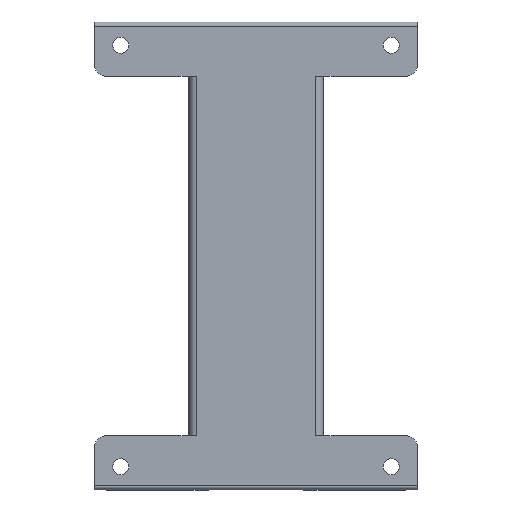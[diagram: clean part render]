
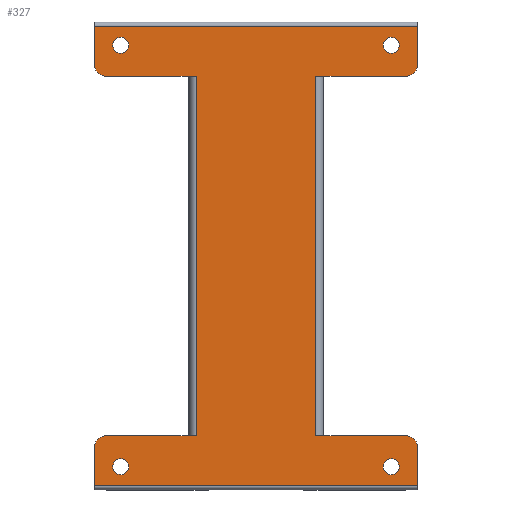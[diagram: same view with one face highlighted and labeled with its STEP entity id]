
A CAD part, top view. The second image highlights one B-rep face of the part: STEP entity #327.
In plain terms, the highlighted planar face has unit normal (0, 0, 1).
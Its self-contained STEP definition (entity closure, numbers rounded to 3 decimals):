
#327=ADVANCED_FACE('',(#1307,#1309,#1311,#1313,#1315),#1317,.T.);
#1307=FACE_BOUND('',#1308,.T.);
#1308=EDGE_LOOP('',(#2068,#2069,#2070,#2071,#2072,#2073,#2074,#2075,#2076,#2077,
#2078,#2079,#2080,#2081,#2082,#2083));
#1309=FACE_BOUND('',#1310,.T.);
#1310=EDGE_LOOP('',(#2084));
#1311=FACE_BOUND('',#1312,.T.);
#1312=EDGE_LOOP('',(#2085));
#1313=FACE_BOUND('',#1314,.T.);
#1314=EDGE_LOOP('',(#2086));
#1315=FACE_BOUND('',#1316,.T.);
#1316=EDGE_LOOP('',(#2087));
#1317=PLANE('',#1318);
#1318=AXIS2_PLACEMENT_3D('',#1319,#1320,#1321);
#1319=CARTESIAN_POINT('',(0.,0.,1.5));
#1320=DIRECTION('',(0.,0.,1.));
#1321=DIRECTION('',(-1.,0.,0.));
#2068=ORIENTED_EDGE('',*,*,#2597,.F.);
#2069=ORIENTED_EDGE('',*,*,#2598,.T.);
#2070=ORIENTED_EDGE('',*,*,#2584,.T.);
#2071=ORIENTED_EDGE('',*,*,#2599,.T.);
#2072=ORIENTED_EDGE('',*,*,#2600,.F.);
#2073=ORIENTED_EDGE('',*,*,#2601,.T.);
#2074=ORIENTED_EDGE('',*,*,#2602,.T.);
#2075=ORIENTED_EDGE('',*,*,#2603,.T.);
#2076=ORIENTED_EDGE('',*,*,#2604,.F.);
#2077=ORIENTED_EDGE('',*,*,#2605,.T.);
#2078=ORIENTED_EDGE('',*,*,#2577,.T.);
#2079=ORIENTED_EDGE('',*,*,#2606,.T.);
#2080=ORIENTED_EDGE('',*,*,#2607,.F.);
#2081=ORIENTED_EDGE('',*,*,#2608,.T.);
#2082=ORIENTED_EDGE('',*,*,#2609,.T.);
#2083=ORIENTED_EDGE('',*,*,#2610,.T.);
#2084=ORIENTED_EDGE('',*,*,#2611,.T.);
#2085=ORIENTED_EDGE('',*,*,#2612,.T.);
#2086=ORIENTED_EDGE('',*,*,#2613,.T.);
#2087=ORIENTED_EDGE('',*,*,#2614,.T.);
#2577=EDGE_CURVE('',#2926,#2924,#2927,.T.);
#2584=EDGE_CURVE('',#2935,#2933,#2936,.T.);
#2597=EDGE_CURVE('',#2953,#2954,#2955,.F.);
#2598=EDGE_CURVE('',#2953,#2935,#2956,.F.);
#2599=EDGE_CURVE('',#2933,#2957,#2958,.F.);
#2600=EDGE_CURVE('',#2959,#2957,#2960,.F.);
#2601=EDGE_CURVE('',#2959,#2961,#2962,.T.);
#2602=EDGE_CURVE('',#2961,#2963,#2964,.T.);
#2603=EDGE_CURVE('',#2963,#2965,#2966,.T.);
#2604=EDGE_CURVE('',#2967,#2965,#2968,.F.);
#2605=EDGE_CURVE('',#2967,#2926,#2969,.F.);
#2606=EDGE_CURVE('',#2924,#2970,#2971,.F.);
#2607=EDGE_CURVE('',#2972,#2970,#2973,.F.);
#2608=EDGE_CURVE('',#2972,#2974,#2975,.T.);
#2609=EDGE_CURVE('',#2974,#2976,#2977,.T.);
#2610=EDGE_CURVE('',#2976,#2954,#2978,.T.);
#2611=EDGE_CURVE('',#2979,#2979,#2980,.F.);
#2612=EDGE_CURVE('',#2981,#2981,#2982,.F.);
#2613=EDGE_CURVE('',#2983,#2983,#2984,.F.);
#2614=EDGE_CURVE('',#2985,#2985,#2986,.F.);
#2924=VERTEX_POINT('',#3544);
#2926=VERTEX_POINT('',#3549);
#2927=LINE('',#3550,#3551);
#2933=VERTEX_POINT('',#3569);
#2935=VERTEX_POINT('',#3574);
#2936=LINE('',#3575,#3576);
#2953=VERTEX_POINT('',#3623);
#2954=VERTEX_POINT('',#3624);
#2955=CIRCLE('',#3625,5.);
#2956=LINE('',#3629,#3630);
#2957=VERTEX_POINT('',#3632);
#2958=LINE('',#3633,#3634);
#2959=VERTEX_POINT('',#3636);
#2960=CIRCLE('',#3637,5.);
#2961=VERTEX_POINT('',#3641);
#2962=LINE('',#3642,#3643);
#2963=VERTEX_POINT('',#3645);
#2964=LINE('',#3646,#3647);
#2965=VERTEX_POINT('',#3649);
#2966=LINE('',#3650,#3651);
#2967=VERTEX_POINT('',#3653);
#2968=CIRCLE('',#3654,5.);
#2969=LINE('',#3658,#3659);
#2970=VERTEX_POINT('',#3661);
#2971=LINE('',#3662,#3663);
#2972=VERTEX_POINT('',#3665);
#2973=CIRCLE('',#3666,5.);
#2974=VERTEX_POINT('',#3670);
#2975=LINE('',#3671,#3672);
#2976=VERTEX_POINT('',#3674);
#2977=LINE('',#3675,#3676);
#2978=LINE('',#3678,#3679);
#2979=VERTEX_POINT('',#3681);
#2980=CIRCLE('',#3682,3.3);
#2981=VERTEX_POINT('',#3686);
#2982=CIRCLE('',#3687,3.3);
#2983=VERTEX_POINT('',#3691);
#2984=CIRCLE('',#3692,3.3);
#2985=VERTEX_POINT('',#3696);
#2986=CIRCLE('',#3697,3.3);
#3544=CARTESIAN_POINT('',(-25.,-75.,1.5));
#3549=CARTESIAN_POINT('',(-25.,75.,1.5));
#3550=CARTESIAN_POINT('',(-25.,75.,1.5));
#3551=VECTOR('',#3552,1.);
#3552=DIRECTION('',(0.,-1.,0.));
#3569=CARTESIAN_POINT('',(25.,75.,1.5));
#3574=CARTESIAN_POINT('',(25.,-75.,1.5));
#3575=CARTESIAN_POINT('',(25.,-75.,1.5));
#3576=VECTOR('',#3577,1.);
#3577=DIRECTION('',(0.,1.,0.));
#3623=CARTESIAN_POINT('',(62.5,-75.,1.5));
#3624=CARTESIAN_POINT('',(67.5,-80.,1.5));
#3625=AXIS2_PLACEMENT_3D('',#3626,#3627,#3628);
#3626=CARTESIAN_POINT('',(62.5,-80.,1.5));
#3627=DIRECTION('',(0.,0.,1.));
#3628=DIRECTION('',(1.,0.,0.));
#3629=CARTESIAN_POINT('',(25.,-75.,1.5));
#3630=VECTOR('',#3631,1.);
#3631=DIRECTION('',(1.,0.,0.));
#3632=CARTESIAN_POINT('',(62.5,75.,1.5));
#3633=CARTESIAN_POINT('',(62.5,75.,1.5));
#3634=VECTOR('',#3635,1.);
#3635=DIRECTION('',(-1.,0.,0.));
#3636=CARTESIAN_POINT('',(67.5,80.,1.5));
#3637=AXIS2_PLACEMENT_3D('',#3638,#3639,#3640);
#3638=CARTESIAN_POINT('',(62.5,80.,1.5));
#3639=DIRECTION('',(0.,0.,1.));
#3640=DIRECTION('',(0.,-1.,0.));
#3641=CARTESIAN_POINT('',(67.5,96.,1.5));
#3642=CARTESIAN_POINT('',(67.5,80.,1.5));
#3643=VECTOR('',#3644,1.);
#3644=DIRECTION('',(0.,1.,0.));
#3645=CARTESIAN_POINT('',(-67.5,96.,1.5));
#3646=CARTESIAN_POINT('',(67.5,96.,1.5));
#3647=VECTOR('',#3648,1.);
#3648=DIRECTION('',(-1.,0.,0.));
#3649=CARTESIAN_POINT('',(-67.5,80.,1.5));
#3650=CARTESIAN_POINT('',(-67.5,96.,1.5));
#3651=VECTOR('',#3652,1.);
#3652=DIRECTION('',(0.,-1.,0.));
#3653=CARTESIAN_POINT('',(-62.5,75.,1.5));
#3654=AXIS2_PLACEMENT_3D('',#3655,#3656,#3657);
#3655=CARTESIAN_POINT('',(-62.5,80.,1.5));
#3656=DIRECTION('',(0.,0.,1.));
#3657=DIRECTION('',(-1.,0.,0.));
#3658=CARTESIAN_POINT('',(-25.,75.,1.5));
#3659=VECTOR('',#3660,1.);
#3660=DIRECTION('',(-1.,0.,0.));
#3661=CARTESIAN_POINT('',(-62.5,-75.,1.5));
#3662=CARTESIAN_POINT('',(-62.5,-75.,1.5));
#3663=VECTOR('',#3664,1.);
#3664=DIRECTION('',(1.,0.,0.));
#3665=CARTESIAN_POINT('',(-67.5,-80.,1.5));
#3666=AXIS2_PLACEMENT_3D('',#3667,#3668,#3669);
#3667=CARTESIAN_POINT('',(-62.5,-80.,1.5));
#3668=DIRECTION('',(0.,0.,1.));
#3669=DIRECTION('',(0.,1.,0.));
#3670=CARTESIAN_POINT('',(-67.5,-96.,1.5));
#3671=CARTESIAN_POINT('',(-67.5,-80.,1.5));
#3672=VECTOR('',#3673,1.);
#3673=DIRECTION('',(0.,-1.,0.));
#3674=CARTESIAN_POINT('',(67.5,-96.,1.5));
#3675=CARTESIAN_POINT('',(-67.5,-96.,1.5));
#3676=VECTOR('',#3677,1.);
#3677=DIRECTION('',(1.,0.,0.));
#3678=CARTESIAN_POINT('',(67.5,-96.,1.5));
#3679=VECTOR('',#3680,1.);
#3680=DIRECTION('',(0.,1.,0.));
#3681=CARTESIAN_POINT('',(53.2,-88.,1.5));
#3682=AXIS2_PLACEMENT_3D('',#3683,#3684,#3685);
#3683=CARTESIAN_POINT('',(56.5,-88.,1.5));
#3684=DIRECTION('',(0.,0.,1.));
#3685=DIRECTION('',(-1.,0.,0.));
#3686=CARTESIAN_POINT('',(53.2,88.,1.5));
#3687=AXIS2_PLACEMENT_3D('',#3688,#3689,#3690);
#3688=CARTESIAN_POINT('',(56.5,88.,1.5));
#3689=DIRECTION('',(0.,0.,1.));
#3690=DIRECTION('',(-1.,0.,0.));
#3691=CARTESIAN_POINT('',(-59.8,88.,1.5));
#3692=AXIS2_PLACEMENT_3D('',#3693,#3694,#3695);
#3693=CARTESIAN_POINT('',(-56.5,88.,1.5));
#3694=DIRECTION('',(0.,0.,1.));
#3695=DIRECTION('',(-1.,0.,0.));
#3696=CARTESIAN_POINT('',(-59.8,-88.,1.5));
#3697=AXIS2_PLACEMENT_3D('',#3698,#3699,#3700);
#3698=CARTESIAN_POINT('',(-56.5,-88.,1.5));
#3699=DIRECTION('',(0.,0.,1.));
#3700=DIRECTION('',(-1.,0.,0.));
